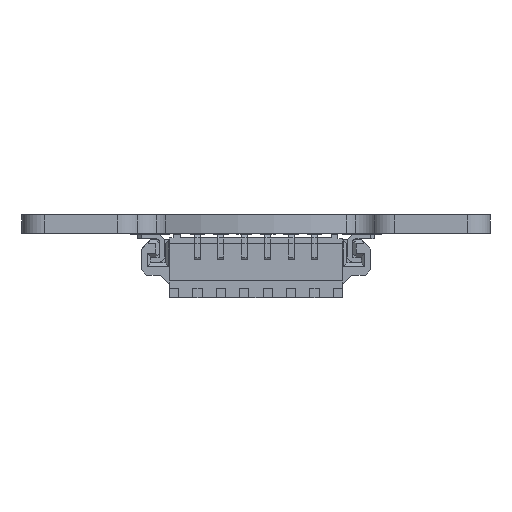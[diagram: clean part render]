
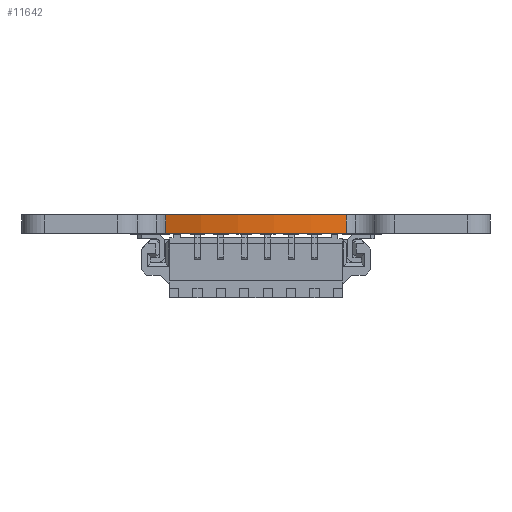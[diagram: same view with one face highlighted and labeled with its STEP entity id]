
A CAD part, left-side view. The second image highlights one B-rep face of the part: STEP entity #11642.
In plain terms, the highlighted cylindrical face has radius 12.5 mm (diameter 25 mm), a partial arc.
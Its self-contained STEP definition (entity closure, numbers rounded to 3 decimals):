
#988 = EDGE_CURVE ( 'NONE', #3046, #3914, #22318, .T. ) ;
#1203 = ORIENTED_EDGE ( 'NONE', *, *, #19148, .F. ) ;
#2475 = CARTESIAN_POINT ( 'NONE',  ( -11.538, 4.808, 0. ) ) ;
#2804 = ORIENTED_EDGE ( 'NONE', *, *, #16516, .T. ) ;
#3046 = VERTEX_POINT ( 'NONE', #2475 ) ;
#3914 = VERTEX_POINT ( 'NONE', #8594 ) ;
#4203 = VECTOR ( 'NONE', #9211, 1000. ) ;
#4905 = CARTESIAN_POINT ( 'NONE',  ( 0., 0., 0. ) ) ;
#5119 = DIRECTION ( 'NONE',  ( 1., 0., 0. ) ) ;
#6013 = DIRECTION ( 'NONE',  ( 0., 0., 1. ) ) ;
#6752 = CARTESIAN_POINT ( 'NONE',  ( -11.538, -4.808, -1. ) ) ;
#6841 = DIRECTION ( 'NONE',  ( 1., 0., 0. ) ) ;
#7262 = ORIENTED_EDGE ( 'NONE', *, *, #18759, .T. ) ;
#7556 = AXIS2_PLACEMENT_3D ( 'NONE', #10899, #17739, #9193 ) ;
#8594 = CARTESIAN_POINT ( 'NONE',  ( -11.538, -4.808, 0. ) ) ;
#9193 = DIRECTION ( 'NONE',  ( 1., 0., 0. ) ) ;
#9211 = DIRECTION ( 'NONE',  ( 0., 0., 1. ) ) ;
#9548 = LINE ( 'NONE', #19555, #4203 ) ;
#10899 = CARTESIAN_POINT ( 'NONE',  ( 0., 0., -1. ) ) ;
#11642 = ADVANCED_FACE ( 'NONE', ( #12900 ), #21162, .T. ) ;
#12900 = FACE_OUTER_BOUND ( 'NONE', #14540, .T. ) ;
#13684 = VERTEX_POINT ( 'NONE', #6752 ) ;
#14049 = CIRCLE ( 'NONE', #7556, 12.5 ) ;
#14540 = EDGE_LOOP ( 'NONE', ( #17372, #1203, #7262, #2804 ) ) ;
#14787 = VECTOR ( 'NONE', #6013, 1000. ) ;
#16271 = LINE ( 'NONE', #18071, #14787 ) ;
#16516 = EDGE_CURVE ( 'NONE', #13684, #3914, #9548, .T. ) ;
#17372 = ORIENTED_EDGE ( 'NONE', *, *, #988, .F. ) ;
#17739 = DIRECTION ( 'NONE',  ( 0., 0., 1. ) ) ;
#18071 = CARTESIAN_POINT ( 'NONE',  ( -11.538, 4.808, -1. ) ) ;
#18147 = CARTESIAN_POINT ( 'NONE',  ( -11.538, 4.808, -1. ) ) ;
#18412 = AXIS2_PLACEMENT_3D ( 'NONE', #4905, #22091, #5119 ) ;
#18759 = EDGE_CURVE ( 'NONE', #19503, #13684, #14049, .T. ) ;
#18890 = CARTESIAN_POINT ( 'NONE',  ( 0., 0., -1. ) ) ;
#19148 = EDGE_CURVE ( 'NONE', #19503, #3046, #16271, .T. ) ;
#19503 = VERTEX_POINT ( 'NONE', #18147 ) ;
#19555 = CARTESIAN_POINT ( 'NONE',  ( -11.538, -4.808, -1. ) ) ;
#19917 = DIRECTION ( 'NONE',  ( 0., 0., 1. ) ) ;
#21049 = AXIS2_PLACEMENT_3D ( 'NONE', #18890, #19917, #6841 ) ;
#21162 = CYLINDRICAL_SURFACE ( 'NONE', #21049, 12.5 ) ;
#22091 = DIRECTION ( 'NONE',  ( 0., 0., 1. ) ) ;
#22318 = CIRCLE ( 'NONE', #18412, 12.5 ) ;
